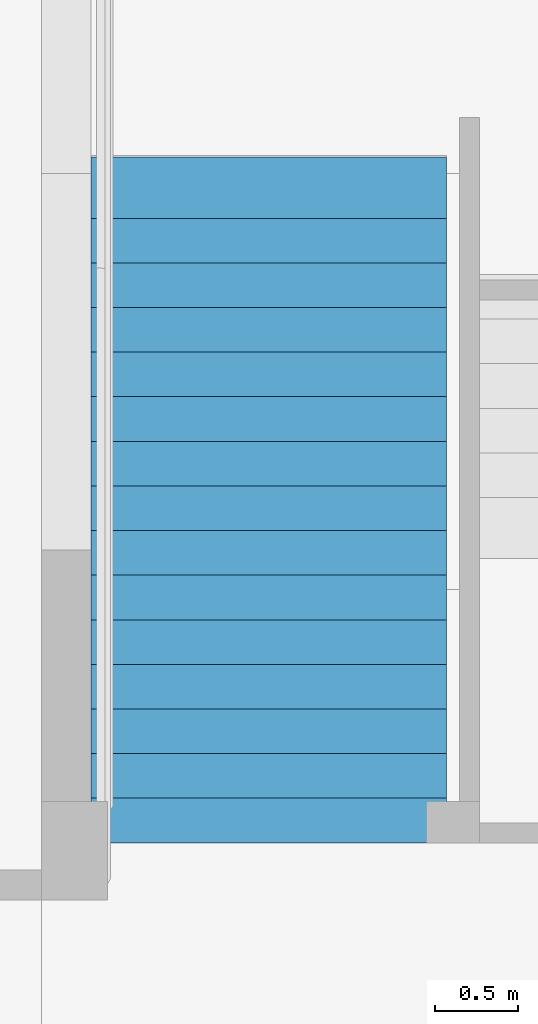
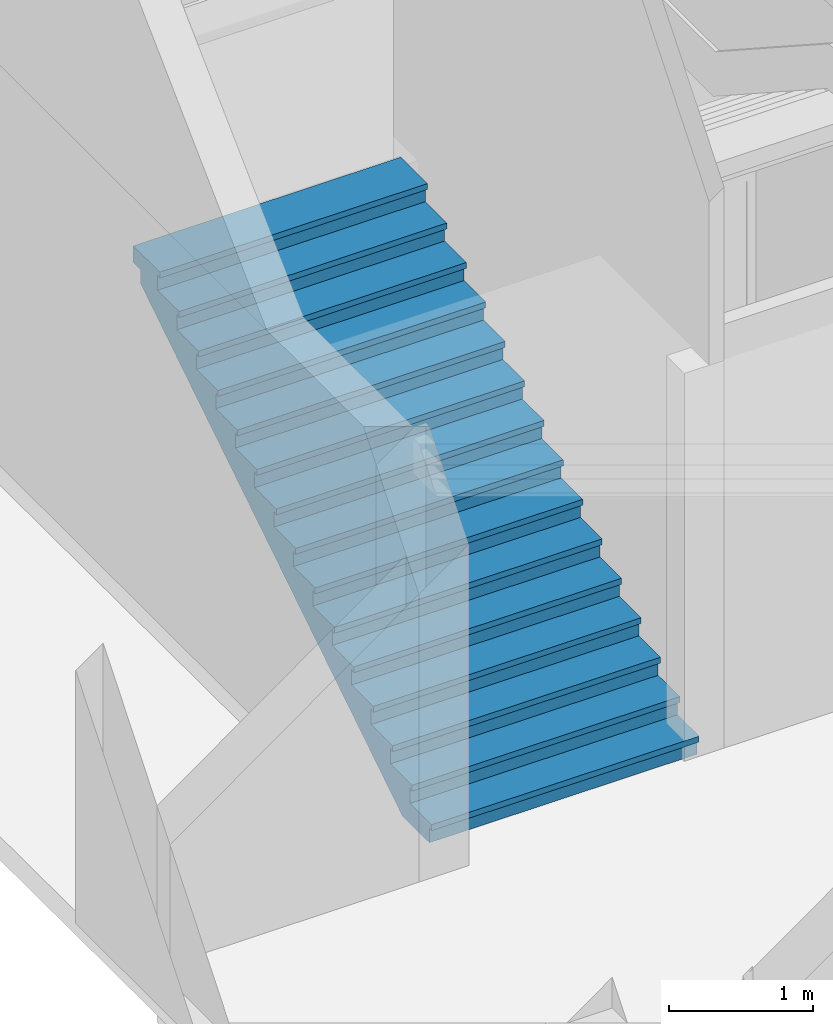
# One storey, part 97 of 117: 1 stair flight, 1 element without a shape of its own.
"""IFC4 building model written with IfcOpenShell, lengths in metres."""

from ifc_helpers import new_model, entity, si_unit, converted_unit, derived_unit, direction, frame, origin, place, context, subcontext, project, spatial, polygons, material, constituent, constituent_set, type_object, element, aggregate, save


model = new_model("IFC4")

# Units and contexts
model_context = context("Model", 3, precision=1e-05, world=origin(), true_north=direction((6.123031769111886e-17, 1.0)))
body_context = subcontext(model_context, "Body", "Model", "MODEL_VIEW")
ifc_project = project(units=[si_unit("LENGTHUNIT", "METRE"), si_unit("AREAUNIT", "SQUARE_METRE"), si_unit("VOLUMEUNIT", "CUBIC_METRE"), converted_unit("PLANEANGLEUNIT", "DEGREE", entity("IfcRatioMeasure", 0.017453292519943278), si_unit("PLANEANGLEUNIT", "RADIAN"), dimensions=[0, 0, 0, 0, 0, 0, 0]), si_unit("MASSUNIT", "GRAM", prefix="KILO"), derived_unit("MASSDENSITYUNIT", [(si_unit("MASSUNIT", "GRAM", prefix="KILO"), 1), (si_unit("LENGTHUNIT", "METRE"), -3)]), derived_unit("MOMENTOFINERTIAUNIT", [(si_unit("LENGTHUNIT", "METRE"), 4)]), si_unit("TIMEUNIT", "SECOND"), si_unit("FREQUENCYUNIT", "HERTZ"), si_unit("THERMODYNAMICTEMPERATUREUNIT", "DEGREE_CELSIUS"), derived_unit("THERMALTRANSMITTANCEUNIT", [(si_unit("MASSUNIT", "GRAM", prefix="KILO"), 1), (si_unit("THERMODYNAMICTEMPERATUREUNIT", "KELVIN"), -1), (si_unit("TIMEUNIT", "SECOND"), -3)]), derived_unit("VOLUMETRICFLOWRATEUNIT", [(si_unit("LENGTHUNIT", "METRE"), 3), (si_unit("TIMEUNIT", "SECOND"), -1)]), derived_unit("MASSFLOWRATEUNIT", [(si_unit("MASSUNIT", "GRAM", prefix="KILO"), 1), (si_unit("TIMEUNIT", "SECOND"), -1)]), derived_unit("ROTATIONALFREQUENCYUNIT", [(si_unit("TIMEUNIT", "SECOND"), -1)]), si_unit("ELECTRICCURRENTUNIT", "AMPERE"), si_unit("ELECTRICVOLTAGEUNIT", "VOLT"), si_unit("POWERUNIT", "WATT"), si_unit("FORCEUNIT", "NEWTON", prefix="KILO"), si_unit("ILLUMINANCEUNIT", "LUX"), si_unit("LUMINOUSFLUXUNIT", "LUMEN"), si_unit("LUMINOUSINTENSITYUNIT", "CANDELA"), derived_unit("USERDEFINED", [(si_unit("MASSUNIT", "GRAM", prefix="KILO"), -1), (si_unit("LENGTHUNIT", "METRE"), -2), (si_unit("TIMEUNIT", "SECOND"), 3), (si_unit("LUMINOUSFLUXUNIT", "LUMEN"), 1)]), derived_unit("SOUNDPOWERUNIT", [(si_unit("MASSUNIT", "GRAM", prefix="KILO"), 1), (si_unit("LENGTHUNIT", "METRE"), 2), (si_unit("TIMEUNIT", "SECOND"), -3)]), derived_unit("SOUNDPRESSUREUNIT", [(si_unit("MASSUNIT", "GRAM", prefix="KILO"), 1), (si_unit("LENGTHUNIT", "METRE"), -1), (si_unit("TIMEUNIT", "SECOND"), -2)]), derived_unit("LINEARVELOCITYUNIT", [(si_unit("LENGTHUNIT", "METRE"), 1), (si_unit("TIMEUNIT", "SECOND"), -1)]), si_unit("PRESSUREUNIT", "PASCAL"), derived_unit("USERDEFINED", [(si_unit("LENGTHUNIT", "METRE"), -2), (si_unit("MASSUNIT", "GRAM", prefix="KILO"), 1), (si_unit("TIMEUNIT", "SECOND"), -2)]), derived_unit("LINEARFORCEUNIT", [(si_unit("MASSUNIT", "GRAM", prefix="KILO"), 1), (si_unit("LENGTHUNIT", "METRE"), 1), (si_unit("TIMEUNIT", "SECOND"), -2), (si_unit("LENGTHUNIT", "METRE"), -1)]), derived_unit("PLANARFORCEUNIT", [(si_unit("MASSUNIT", "GRAM", prefix="KILO"), 1), (si_unit("LENGTHUNIT", "METRE"), 1), (si_unit("TIMEUNIT", "SECOND"), -2), (si_unit("LENGTHUNIT", "METRE"), -2)])], contexts=[model_context])

# Site, building, storey
site_placement = place(None, origin())
site = spatial("IfcSite", under=ifc_project, at=site_placement, Name="Superficie", CompositionType="ELEMENT")
building_placement = place(site_placement, origin())
building = spatial("IfcBuilding", under=site, at=building_placement, CompositionType="ELEMENT")
storey_placement = place(building_placement, origin())
storey = spatial("IfcBuildingStorey", under=building, at=storey_placement, Name="Nivel 0", CompositionType="ELEMENT", Elevation=0.0)

# Stair, stair flight
stair_type = type_object("IfcStairType", Name="Escalera prefabricada:Escalera prefabricada", PredefinedType="HALF_TURN_STAIR")
stair_placement = place(storey_placement, origin())
stair = element("IfcStair", 1, at=stair_placement, inside=storey, type_object=stair_type, Name="Escalera prefabricada:Escalera", ObjectType="Escalera prefabricada:Escalera prefabricada", PredefinedType="HALF_TURN_STAIR")
ifc_material_1 = material(Name="Cerámica blanca", Category="Cerámica")
ifc_constituent_1 = constituent(ifc_material_1, Name="Cerámica blanca", Category="Cerámica")
ifc_material_2 = material(Name="Hormigón", Category="Hormigón")
ifc_constituent_2 = constituent(ifc_material_2, Name="Hormigón", Category="Hormigón")
ifc_constituent_set = constituent_set(constituents=[ifc_constituent_1, ifc_constituent_2], Name="MaterialConstituentSet")
stair_flight_type = type_object("IfcStairFlightType", Name="Tramo monolítico:Huella 40 mm Mamperlán 30 mm Contrahuella 15 mm", PredefinedType="STRAIGHT")
stair_flight_placement = place(stair_placement, frame((-27.543200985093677, -2.924170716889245, 0.0)))
stair_flight = element("IfcStairFlight", 2, at=stair_flight_placement, type_object=stair_flight_type, material=ifc_constituent_set, Name="Escalera prefabricada:Escalera:336865 Run 1", ObjectType="Tramo monolítico:Huella 40 mm Mamperlán 30 mm Contrahuella 15 mm", PredefinedType="STRAIGHT", context=body_context, shape_type="Tessellation", body=[
    polygons([(2.1499999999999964, 0.0, 0.12142857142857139), (2.1499999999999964, 0.0, 0.1714285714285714), (0.0, 0.0, 0.1714285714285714), (0.0, 0.0, 0.12142857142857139), (2.1499999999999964, 0.022999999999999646, 0.12142857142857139), (0.0, 0.022999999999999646, 0.12142857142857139), (2.1499999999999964, 0.023000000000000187, 0.1314285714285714), (0.0, 0.022999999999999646, 0.1314285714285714), (2.1499999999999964, 0.31499999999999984, 0.1714285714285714), (0.0, 0.31499999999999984, 0.1714285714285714), (0.0, 0.31499999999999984, 0.1314285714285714), (2.1499999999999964, 0.31499999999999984, 0.1314285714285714)], [[[1, 2, 3, 4]], [[5, 1, 4, 6]], [[7, 5, 6, 8]], [[3, 2, 9, 10]], [[11, 12, 7, 8]], [[3, 10, 11, 8, 6, 4]], [[9, 2, 1, 5, 7, 12]], [[10, 9, 12, 11]]], closed=True),
    polygons([(2.1499999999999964, 0.029999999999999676, 0.1314285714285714), (2.1499999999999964, 0.029999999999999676, 0.0), (2.1499999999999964, 0.04499999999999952, 0.0), (2.1499999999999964, 0.04499999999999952, 0.1314285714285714), (0.0, 0.029999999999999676, 0.1314285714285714), (0.0, 0.04499999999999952, 0.1314285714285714), (0.0, 0.04499999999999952, 0.0), (0.0, 0.029999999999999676, 0.0)], [[[1, 2, 3, 4]], [[5, 6, 7, 8]], [[2, 1, 5, 8]], [[3, 2, 8, 7]], [[4, 3, 7, 6]], [[1, 4, 6, 5]]], closed=True),
    polygons([(2.1499999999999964, 0.2999999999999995, 0.3028571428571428), (2.1499999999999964, 0.2999999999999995, 0.1714285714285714), (2.1499999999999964, 0.31499999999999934, 0.1714285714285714), (2.1499999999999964, 0.31499999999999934, 0.3028571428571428), (0.0, 0.2999999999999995, 0.3028571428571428), (0.0, 0.31499999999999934, 0.3028571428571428), (0.0, 0.31499999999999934, 0.1714285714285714), (0.0, 0.2999999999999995, 0.1714285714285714)], [[[1, 2, 3, 4]], [[5, 6, 7, 8]], [[2, 1, 5, 8]], [[3, 2, 8, 7]], [[4, 3, 7, 6]], [[1, 4, 6, 5]]], closed=True),
    polygons([(0.0, 0.2699999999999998, 0.3428571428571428), (2.1499999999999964, 0.2699999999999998, 0.3428571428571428), (2.1499999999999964, 0.5850000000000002, 0.3428571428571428), (0.0, 0.5850000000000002, 0.3428571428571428), (0.0, 0.5850000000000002, 0.3028571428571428), (2.1499999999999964, 0.5850000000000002, 0.3028571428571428), (2.1499999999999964, 0.2929999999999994, 0.3028571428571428), (0.0, 0.2929999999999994, 0.3028571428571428), (0.0, 0.2929999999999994, 0.29285714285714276), (0.0, 0.2699999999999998, 0.29285714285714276), (2.1499999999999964, 0.2699999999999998, 0.29285714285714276), (2.1499999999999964, 0.2929999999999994, 0.29285714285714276)], [[[1, 2, 3, 4]], [[5, 6, 7, 8]], [[1, 4, 5, 8, 9, 10]], [[3, 2, 11, 12, 7, 6]], [[4, 3, 6, 5]], [[11, 2, 1, 10]], [[12, 11, 10, 9]], [[7, 12, 9, 8]]], closed=True),
    polygons([(2.1499999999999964, 0.5699999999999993, 0.4742857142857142), (2.1499999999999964, 0.5699999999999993, 0.3428571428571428), (2.1499999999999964, 0.5849999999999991, 0.3428571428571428), (2.1499999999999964, 0.5849999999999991, 0.4742857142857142), (0.0, 0.5699999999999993, 0.4742857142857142), (0.0, 0.5849999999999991, 0.4742857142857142), (0.0, 0.5849999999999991, 0.3428571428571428), (0.0, 0.5699999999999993, 0.3428571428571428)], [[[1, 2, 3, 4]], [[5, 6, 7, 8]], [[2, 1, 5, 8]], [[3, 2, 8, 7]], [[4, 3, 7, 6]], [[1, 4, 6, 5]]], closed=True),
    polygons([(0.0, 0.5399999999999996, 0.5142857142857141), (2.1499999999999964, 0.5399999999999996, 0.5142857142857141), (2.1499999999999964, 0.8549999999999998, 0.5142857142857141), (0.0, 0.8549999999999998, 0.5142857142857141), (0.0, 0.8549999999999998, 0.4742857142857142), (2.1499999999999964, 0.8549999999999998, 0.4742857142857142), (2.1499999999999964, 0.5629999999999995, 0.4742857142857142), (0.0, 0.5629999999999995, 0.4742857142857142), (0.0, 0.5629999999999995, 0.46428571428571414), (0.0, 0.5399999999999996, 0.46428571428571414), (2.1499999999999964, 0.5399999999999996, 0.46428571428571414), (2.1499999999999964, 0.5629999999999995, 0.46428571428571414)], [[[1, 2, 3, 4]], [[5, 6, 7, 8]], [[1, 4, 5, 8, 9, 10]], [[3, 2, 11, 12, 7, 6]], [[4, 3, 6, 5]], [[11, 2, 1, 10]], [[12, 11, 10, 9]], [[7, 12, 9, 8]]], closed=True),
    polygons([(2.150000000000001, 0.8400000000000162, 0.6457142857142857), (2.150000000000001, 0.8400000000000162, 0.5142857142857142), (2.150000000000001, 0.8550000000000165, 0.5142857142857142), (2.150000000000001, 0.8550000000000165, 0.6457142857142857), (0.0, 0.8400000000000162, 0.6457142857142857), (0.0, 0.8550000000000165, 0.6457142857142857), (0.0, 0.8550000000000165, 0.5142857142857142), (0.0, 0.8400000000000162, 0.5142857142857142)], [[[1, 2, 3, 4]], [[5, 6, 7, 8]], [[2, 1, 5, 8]], [[3, 2, 8, 7]], [[4, 3, 7, 6]], [[1, 4, 6, 5]]], closed=True),
    polygons([(0.0, 0.810000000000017, 0.6857142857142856), (2.150000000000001, 0.8100000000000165, 0.6857142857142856), (2.150000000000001, 1.125000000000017, 0.6857142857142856), (0.0, 1.125000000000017, 0.6857142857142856), (0.0, 1.125000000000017, 0.6457142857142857), (2.150000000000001, 1.125000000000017, 0.6457142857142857), (2.150000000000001, 0.8330000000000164, 0.6457142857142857), (0.0, 0.8330000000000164, 0.6457142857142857), (0.0, 0.8330000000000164, 0.6357142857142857), (0.0, 0.8100000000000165, 0.6357142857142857), (2.150000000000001, 0.8100000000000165, 0.6357142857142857), (2.150000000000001, 0.8330000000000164, 0.6357142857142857)], [[[1, 2, 3, 4]], [[5, 6, 7, 8]], [[1, 4, 5, 8, 9, 10]], [[3, 2, 11, 12, 7, 6]], [[4, 3, 6, 5]], [[11, 2, 1, 10]], [[12, 11, 10, 9]], [[7, 12, 9, 8]]], closed=True),
    polygons([(2.150000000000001, 1.1099999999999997, 0.8171428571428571), (2.150000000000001, 1.1099999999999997, 0.6857142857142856), (2.150000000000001, 1.1249999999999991, 0.6857142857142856), (2.150000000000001, 1.1249999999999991, 0.8171428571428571), (0.0, 1.1099999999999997, 0.8171428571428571), (0.0, 1.1249999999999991, 0.8171428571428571), (0.0, 1.1249999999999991, 0.6857142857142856), (0.0, 1.1099999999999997, 0.6857142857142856)], [[[1, 2, 3, 4]], [[5, 6, 7, 8]], [[2, 1, 5, 8]], [[3, 2, 8, 7]], [[4, 3, 7, 6]], [[1, 4, 6, 5]]], closed=True),
    polygons([(0.0, 1.08, 0.8571428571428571), (2.150000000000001, 1.08, 0.8571428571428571), (2.150000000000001, 1.3950000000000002, 0.8571428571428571), (0.0, 1.3950000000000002, 0.8571428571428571), (0.0, 1.3950000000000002, 0.8171428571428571), (2.150000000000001, 1.3950000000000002, 0.8171428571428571), (2.150000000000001, 1.1029999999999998, 0.8171428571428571), (0.0, 1.1029999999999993, 0.8171428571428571), (0.0, 1.1029999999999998, 0.807142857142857), (0.0, 1.08, 0.807142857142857), (2.150000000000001, 1.08, 0.807142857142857), (2.150000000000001, 1.1029999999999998, 0.807142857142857)], [[[1, 2, 3, 4]], [[5, 6, 7, 8]], [[1, 4, 5, 8, 9, 10]], [[3, 2, 11, 12, 7, 6]], [[4, 3, 6, 5]], [[11, 2, 1, 10]], [[12, 11, 10, 9]], [[7, 12, 9, 8]]], closed=True),
    polygons([(2.150000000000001, 1.3799999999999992, 0.9885714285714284), (2.150000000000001, 1.3799999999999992, 0.8571428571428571), (2.150000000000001, 1.3949999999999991, 0.8571428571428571), (2.150000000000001, 1.3949999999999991, 0.9885714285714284), (0.0, 1.3799999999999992, 0.9885714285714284), (0.0, 1.3949999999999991, 0.9885714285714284), (0.0, 1.3949999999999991, 0.8571428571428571), (0.0, 1.3799999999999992, 0.8571428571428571)], [[[1, 2, 3, 4]], [[5, 6, 7, 8]], [[2, 1, 5, 8]], [[3, 2, 8, 7]], [[4, 3, 7, 6]], [[1, 4, 6, 5]]], closed=True),
    polygons([(0.0, 1.3499999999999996, 1.0285714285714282), (2.150000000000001, 1.3499999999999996, 1.0285714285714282), (2.150000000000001, 1.665, 1.0285714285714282), (0.0, 1.665, 1.0285714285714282), (0.0, 1.665, 0.9885714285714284), (2.150000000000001, 1.665, 0.9885714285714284), (2.150000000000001, 1.3729999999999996, 0.9885714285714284), (0.0, 1.3729999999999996, 0.9885714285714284), (0.0, 1.3729999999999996, 0.9785714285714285), (0.0, 1.3499999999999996, 0.9785714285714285), (2.150000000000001, 1.3499999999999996, 0.9785714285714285), (2.150000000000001, 1.3729999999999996, 0.9785714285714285)], [[[1, 2, 3, 4]], [[5, 6, 7, 8]], [[1, 4, 5, 8, 9, 10]], [[3, 2, 11, 12, 7, 6]], [[4, 3, 6, 5]], [[11, 2, 1, 10]], [[12, 11, 10, 9]], [[7, 12, 9, 8]]], closed=True),
    polygons([(2.150000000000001, 1.6499999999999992, 1.16), (2.150000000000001, 1.6499999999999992, 1.0285714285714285), (2.150000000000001, 1.6649999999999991, 1.0285714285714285), (2.150000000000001, 1.6649999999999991, 1.16), (0.0, 1.6499999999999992, 1.16), (0.0, 1.6649999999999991, 1.16), (0.0, 1.6649999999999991, 1.0285714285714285), (0.0, 1.6499999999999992, 1.0285714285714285)], [[[1, 2, 3, 4]], [[5, 6, 7, 8]], [[2, 1, 5, 8]], [[3, 2, 8, 7]], [[4, 3, 7, 6]], [[1, 4, 6, 5]]], closed=True),
    polygons([(0.0, 1.6199999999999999, 1.1999999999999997), (2.150000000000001, 1.6199999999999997, 1.1999999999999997), (2.150000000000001, 1.9350000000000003, 1.1999999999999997), (0.0, 1.9350000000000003, 1.1999999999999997), (0.0, 1.9350000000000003, 1.16), (2.150000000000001, 1.9350000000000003, 1.16), (2.150000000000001, 1.6429999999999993, 1.16), (0.0, 1.6429999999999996, 1.16), (0.0, 1.6429999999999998, 1.15), (0.0, 1.6199999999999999, 1.15), (2.150000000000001, 1.6199999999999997, 1.15), (2.150000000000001, 1.6429999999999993, 1.15)], [[[1, 2, 3, 4]], [[5, 6, 7, 8]], [[1, 4, 5, 8, 9, 10]], [[3, 2, 11, 12, 7, 6]], [[4, 3, 6, 5]], [[11, 2, 1, 10]], [[12, 11, 10, 9]], [[7, 12, 9, 8]]], closed=True),
    polygons([(2.150000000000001, 1.9199999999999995, 1.331428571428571), (2.150000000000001, 1.9199999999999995, 1.1999999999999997), (2.150000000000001, 1.9349999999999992, 1.1999999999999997), (2.150000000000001, 1.9349999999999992, 1.331428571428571), (0.0, 1.9199999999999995, 1.331428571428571), (0.0, 1.9349999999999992, 1.331428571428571), (0.0, 1.9349999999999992, 1.1999999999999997), (0.0, 1.9199999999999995, 1.1999999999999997)], [[[1, 2, 3, 4]], [[5, 6, 7, 8]], [[2, 1, 5, 8]], [[3, 2, 8, 7]], [[4, 3, 7, 6]], [[1, 4, 6, 5]]], closed=True),
    polygons([(0.0, 1.8899999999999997, 1.371428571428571), (2.150000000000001, 1.8899999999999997, 1.371428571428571), (2.150000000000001, 2.205, 1.371428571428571), (0.0, 2.205, 1.371428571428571), (0.0, 2.205, 1.331428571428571), (2.150000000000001, 2.205, 1.3314285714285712), (2.150000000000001, 1.9129999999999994, 1.3314285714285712), (0.0, 1.9129999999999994, 1.331428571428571), (0.0, 1.9129999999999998, 1.321428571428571), (0.0, 1.8899999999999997, 1.321428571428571), (2.150000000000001, 1.8899999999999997, 1.321428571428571), (2.150000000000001, 1.9129999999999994, 1.321428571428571)], [[[1, 2, 3, 4]], [[5, 6, 7, 8]], [[1, 4, 5, 8, 9, 10]], [[3, 2, 11, 12, 7, 6]], [[4, 3, 6, 5]], [[11, 2, 1, 10]], [[12, 11, 10, 9]], [[7, 12, 9, 8]]], closed=True),
    polygons([(2.150000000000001, 2.189999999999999, 1.5028571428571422), (2.150000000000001, 2.189999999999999, 1.3714285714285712), (2.150000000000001, 2.204999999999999, 1.3714285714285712), (2.150000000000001, 2.204999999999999, 1.5028571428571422), (0.0, 2.189999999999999, 1.5028571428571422), (0.0, 2.204999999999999, 1.5028571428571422), (0.0, 2.204999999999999, 1.3714285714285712), (0.0, 2.189999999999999, 1.3714285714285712)], [[[1, 2, 3, 4]], [[5, 6, 7, 8]], [[2, 1, 5, 8]], [[3, 2, 8, 7]], [[4, 3, 7, 6]], [[1, 4, 6, 5]]], closed=True),
    polygons([(0.0, 2.1599999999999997, 1.5428571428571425), (2.150000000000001, 2.1599999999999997, 1.5428571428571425), (2.150000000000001, 2.475, 1.5428571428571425), (0.0, 2.475, 1.5428571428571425), (0.0, 2.475, 1.5028571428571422), (2.150000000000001, 2.475, 1.5028571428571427), (2.150000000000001, 2.1829999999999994, 1.5028571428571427), (0.0, 2.1829999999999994, 1.5028571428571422), (0.0, 2.1829999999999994, 1.4928571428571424), (0.0, 2.1599999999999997, 1.4928571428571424), (2.150000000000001, 2.1599999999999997, 1.4928571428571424), (2.150000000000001, 2.1829999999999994, 1.4928571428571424)], [[[1, 2, 3, 4]], [[5, 6, 7, 8]], [[1, 4, 5, 8, 9, 10]], [[3, 2, 11, 12, 7, 6]], [[4, 3, 6, 5]], [[11, 2, 1, 10]], [[12, 11, 10, 9]], [[7, 12, 9, 8]]], closed=True),
    polygons([(2.150000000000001, 2.4599999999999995, 1.6742857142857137), (2.150000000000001, 2.4599999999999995, 1.5428571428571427), (2.150000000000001, 2.474999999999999, 1.5428571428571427), (2.150000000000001, 2.474999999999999, 1.6742857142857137), (0.0, 2.4599999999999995, 1.6742857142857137), (0.0, 2.474999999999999, 1.6742857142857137), (0.0, 2.474999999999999, 1.5428571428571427), (0.0, 2.4599999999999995, 1.5428571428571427)], [[[1, 2, 3, 4]], [[5, 6, 7, 8]], [[2, 1, 5, 8]], [[3, 2, 8, 7]], [[4, 3, 7, 6]], [[1, 4, 6, 5]]], closed=True),
    polygons([(0.0, 2.43, 1.7142857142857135), (2.150000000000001, 2.4299999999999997, 1.7142857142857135), (2.150000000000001, 2.745, 1.7142857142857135), (0.0, 2.745, 1.7142857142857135), (0.0, 2.745, 1.6742857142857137), (2.150000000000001, 2.745, 1.674285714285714), (2.150000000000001, 2.4529999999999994, 1.674285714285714), (0.0, 2.4529999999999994, 1.6742857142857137), (0.0, 2.453, 1.664285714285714), (0.0, 2.4299999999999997, 1.664285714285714), (2.150000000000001, 2.4299999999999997, 1.664285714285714), (2.150000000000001, 2.4529999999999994, 1.664285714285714)], [[[1, 2, 3, 4]], [[5, 6, 7, 8]], [[1, 4, 5, 8, 9, 10]], [[3, 2, 11, 12, 7, 6]], [[4, 3, 6, 5]], [[11, 2, 1, 10]], [[12, 11, 10, 9]], [[7, 12, 9, 8]]], closed=True),
    polygons([(2.150000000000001, 2.730000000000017, 1.8457142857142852), (2.150000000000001, 2.730000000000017, 1.7142857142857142), (2.150000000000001, 2.7450000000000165, 1.7142857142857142), (2.150000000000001, 2.7450000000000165, 1.8457142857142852), (0.0, 2.730000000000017, 1.8457142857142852), (0.0, 2.7450000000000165, 1.8457142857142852), (0.0, 2.7450000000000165, 1.7142857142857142), (0.0, 2.730000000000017, 1.7142857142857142)], [[[1, 2, 3, 4]], [[5, 6, 7, 8]], [[2, 1, 5, 8]], [[3, 2, 8, 7]], [[4, 3, 7, 6]], [[1, 4, 6, 5]]], closed=True),
    polygons([(0.0, 2.700000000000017, 1.885714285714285), (2.150000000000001, 2.700000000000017, 1.885714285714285), (2.150000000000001, 3.0150000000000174, 1.885714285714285), (0.0, 3.0150000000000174, 1.885714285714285), (0.0, 3.0150000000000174, 1.8457142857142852), (2.150000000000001, 3.0150000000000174, 1.8457142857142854), (2.150000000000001, 2.7230000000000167, 1.8457142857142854), (0.0, 2.7230000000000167, 1.8457142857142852), (0.0, 2.723000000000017, 1.8357142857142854), (0.0, 2.700000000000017, 1.8357142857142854), (2.150000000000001, 2.700000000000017, 1.8357142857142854), (2.150000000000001, 2.7230000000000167, 1.8357142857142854)], [[[1, 2, 3, 4]], [[5, 6, 7, 8]], [[1, 4, 5, 8, 9, 10]], [[3, 2, 11, 12, 7, 6]], [[4, 3, 6, 5]], [[11, 2, 1, 10]], [[12, 11, 10, 9]], [[7, 12, 9, 8]]], closed=True),
    polygons([(2.1500000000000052, 2.999999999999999, 2.0171428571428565), (2.1500000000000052, 2.999999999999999, 1.885714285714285), (2.1500000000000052, 3.014999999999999, 1.885714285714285), (2.1500000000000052, 3.014999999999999, 2.0171428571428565), (8.662937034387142e-15, 2.999999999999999, 2.0171428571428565), (8.662937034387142e-15, 3.014999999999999, 2.0171428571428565), (8.662937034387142e-15, 3.014999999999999, 1.885714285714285), (8.662937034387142e-15, 2.999999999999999, 1.885714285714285)], [[[1, 2, 3, 4]], [[5, 6, 7, 8]], [[2, 1, 5, 8]], [[3, 2, 8, 7]], [[4, 3, 7, 6]], [[1, 4, 6, 5]]], closed=True),
    polygons([(8.662937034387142e-15, 2.9699999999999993, 2.0571428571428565), (2.1500000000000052, 2.9699999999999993, 2.0571428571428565), (2.1500000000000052, 3.2849999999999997, 2.0571428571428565), (8.662937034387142e-15, 3.2849999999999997, 2.0571428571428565), (8.662937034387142e-15, 3.2849999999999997, 2.0171428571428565), (2.1500000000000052, 3.2849999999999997, 2.0171428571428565), (2.1500000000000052, 2.992999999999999, 2.0171428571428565), (8.662937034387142e-15, 2.992999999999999, 2.0171428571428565), (8.662937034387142e-15, 2.993, 2.0071428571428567), (8.662937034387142e-15, 2.9699999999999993, 2.0071428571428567), (2.1500000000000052, 2.9699999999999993, 2.0071428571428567), (2.1500000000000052, 2.992999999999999, 2.0071428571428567)], [[[1, 2, 3, 4]], [[5, 6, 7, 8]], [[1, 4, 5, 8, 9, 10]], [[3, 2, 11, 12, 7, 6]], [[4, 3, 6, 5]], [[11, 2, 1, 10]], [[12, 11, 10, 9]], [[7, 12, 9, 8]]], closed=True),
    polygons([(2.1500000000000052, 3.2699999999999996, 2.1885714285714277), (2.1500000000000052, 3.2699999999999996, 2.0571428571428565), (2.1500000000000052, 3.2849999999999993, 2.0571428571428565), (2.1500000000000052, 3.2849999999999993, 2.1885714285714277), (8.662937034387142e-15, 3.2699999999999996, 2.1885714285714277), (8.662937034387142e-15, 3.2849999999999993, 2.1885714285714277), (8.662937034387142e-15, 3.2849999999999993, 2.0571428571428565), (8.662937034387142e-15, 3.2699999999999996, 2.0571428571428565)], [[[1, 2, 3, 4]], [[5, 6, 7, 8]], [[2, 1, 5, 8]], [[3, 2, 8, 7]], [[4, 3, 7, 6]], [[1, 4, 6, 5]]], closed=True),
    polygons([(8.662937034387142e-15, 3.2399999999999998, 2.2285714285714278), (2.1500000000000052, 3.2399999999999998, 2.2285714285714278), (2.1500000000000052, 3.555, 2.2285714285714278), (8.662937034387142e-15, 3.555, 2.2285714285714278), (8.662937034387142e-15, 3.555, 2.188571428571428), (2.1500000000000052, 3.555, 2.188571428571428), (2.1500000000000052, 3.2629999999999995, 2.188571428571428), (8.662937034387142e-15, 3.2629999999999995, 2.1885714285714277), (8.662937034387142e-15, 3.263, 2.178571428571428), (8.662937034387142e-15, 3.2399999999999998, 2.178571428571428), (2.1500000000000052, 3.2399999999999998, 2.178571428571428), (2.1500000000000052, 3.2629999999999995, 2.178571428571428)], [[[1, 2, 3, 4]], [[5, 6, 7, 8]], [[1, 4, 5, 8, 9, 10]], [[3, 2, 11, 12, 7, 6]], [[4, 3, 6, 5]], [[11, 2, 1, 10]], [[12, 11, 10, 9]], [[7, 12, 9, 8]]], closed=True),
    polygons([(2.1500000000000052, 3.539999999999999, 2.3599999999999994), (2.1500000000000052, 3.539999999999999, 2.2285714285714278), (2.1500000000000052, 3.5549999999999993, 2.2285714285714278), (2.1500000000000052, 3.5549999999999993, 2.3599999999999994), (8.662937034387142e-15, 3.539999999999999, 2.3599999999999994), (8.662937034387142e-15, 3.5549999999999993, 2.3599999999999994), (8.662937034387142e-15, 3.5549999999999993, 2.2285714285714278), (8.662937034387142e-15, 3.539999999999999, 2.2285714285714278)], [[[1, 2, 3, 4]], [[5, 6, 7, 8]], [[2, 1, 5, 8]], [[3, 2, 8, 7]], [[4, 3, 7, 6]], [[1, 4, 6, 5]]], closed=True),
    polygons([(8.662937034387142e-15, 3.51, 2.3999999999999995), (2.1500000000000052, 3.51, 2.3999999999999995), (2.1500000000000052, 3.825, 2.3999999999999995), (8.662937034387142e-15, 3.825, 2.3999999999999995), (8.662937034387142e-15, 3.825, 2.3599999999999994), (2.1500000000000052, 3.825, 2.3599999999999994), (2.1500000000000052, 3.5329999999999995, 2.3599999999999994), (8.662937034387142e-15, 3.5329999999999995, 2.3599999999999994), (8.662937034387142e-15, 3.5329999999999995, 2.349999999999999), (8.662937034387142e-15, 3.51, 2.349999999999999), (2.1500000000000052, 3.51, 2.349999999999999), (2.1500000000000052, 3.5329999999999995, 2.349999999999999)], [[[1, 2, 3, 4]], [[5, 6, 7, 8]], [[1, 4, 5, 8, 9, 10]], [[3, 2, 11, 12, 7, 6]], [[4, 3, 6, 5]], [[11, 2, 1, 10]], [[12, 11, 10, 9]], [[7, 12, 9, 8]]], closed=True),
    polygons([(2.1500000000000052, 3.8099999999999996, 2.531428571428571), (2.1500000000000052, 3.81, 2.3999999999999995), (2.1500000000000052, 3.825, 2.3999999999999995), (2.1500000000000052, 3.825, 2.531428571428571), (8.662937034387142e-15, 3.8099999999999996, 2.531428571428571), (8.662937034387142e-15, 3.825, 2.531428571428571), (8.662937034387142e-15, 3.825, 2.3999999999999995), (8.662937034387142e-15, 3.81, 2.3999999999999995)], [[[1, 2, 3, 4]], [[5, 6, 7, 8]], [[2, 1, 5, 8]], [[3, 2, 8, 7]], [[4, 3, 7, 6]], [[1, 4, 6, 5]]], closed=True),
    polygons([(8.662937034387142e-15, 4.15, 2.571428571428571), (8.662937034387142e-15, 4.050000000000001, 2.571428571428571), (8.662937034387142e-15, 3.78, 2.571428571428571), (2.1500000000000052, 3.78, 2.571428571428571), (2.1500000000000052, 4.15, 2.571428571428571), (8.662937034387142e-15, 4.050000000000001, 2.531428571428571), (8.662937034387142e-15, 4.15, 2.531428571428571), (2.1500000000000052, 4.15, 2.531428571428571), (2.1500000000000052, 3.8030000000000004, 2.531428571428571), (8.662937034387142e-15, 3.8030000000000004, 2.531428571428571), (2.1500000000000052, 3.78, 2.521428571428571), (2.1500000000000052, 3.8030000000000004, 2.521428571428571), (8.662937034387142e-15, 3.78, 2.521428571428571), (8.662937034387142e-15, 3.8030000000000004, 2.521428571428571)], [[[1, 2, 3, 4, 5]], [[6, 7, 8, 9, 10]], [[2, 1, 7, 6]], [[5, 4, 11, 12, 9, 8]], [[1, 5, 8, 7]], [[11, 4, 3, 13]], [[12, 11, 13, 14]], [[9, 12, 14, 10]], [[3, 2, 6, 10, 14, 13]]], closed=True),
    polygons([(0.0, 0.31499999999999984, 0.13142857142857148), (0.0, 0.04500000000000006, 0.13142857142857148), (2.1499999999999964, 0.04500000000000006, 0.13142857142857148), (2.1499999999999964, 0.31499999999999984, 0.13142857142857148), (0.0, 0.31499999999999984, 0.0), (0.0, 0.04500000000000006, 5.639932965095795e-18), (2.1499999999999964, 0.04500000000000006, 5.639932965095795e-18), (2.1499999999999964, 0.31499999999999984, 0.0), (0.0, 0.5850000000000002, 0.3028571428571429), (0.0, 0.3150000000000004, 0.3028571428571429), (2.1499999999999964, 0.3150000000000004, 0.3028571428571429), (2.1499999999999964, 0.5850000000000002, 0.3028571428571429), (0.0, 0.585, 0.11333147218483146), (0.0, 0.4065029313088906, -9.023892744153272e-17), (2.1499999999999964, 0.4065029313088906, -9.023892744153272e-17), (2.1499999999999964, 0.585, 0.11333147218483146), (0.0, 0.8550000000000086, 0.47428571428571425), (0.0, 0.5850000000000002, 0.47428571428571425), (2.1499999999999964, 0.5850000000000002, 0.47428571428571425), (2.1499999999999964, 0.8550000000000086, 0.47428571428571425), (0.0, 0.8549999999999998, 0.2847600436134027), (2.1499999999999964, 0.8549999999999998, 0.2847600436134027), (4.331468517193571e-15, 1.1250000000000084, 0.6457142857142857), (0.0, 0.8550000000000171, 0.6457142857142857), (2.150000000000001, 0.8550000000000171, 0.6457142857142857), (2.150000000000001, 1.1250000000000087, 0.6457142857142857), (0.0, 1.1250000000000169, 0.4561886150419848), (2.150000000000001, 1.1250000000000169, 0.4561886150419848), (4.331468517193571e-15, 1.3950000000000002, 0.8171428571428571), (0.0, 1.1250000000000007, 0.8171428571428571), (2.150000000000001, 1.1250000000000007, 0.8171428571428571), (2.150000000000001, 1.3950000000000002, 0.8171428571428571), (0.0, 1.3949999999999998, 0.6276171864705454), (2.150000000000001, 1.3949999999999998, 0.6276171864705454), (4.331468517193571e-15, 1.665, 0.9885714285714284), (0.0, 1.3950000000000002, 0.9885714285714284), (2.150000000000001, 1.3950000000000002, 0.9885714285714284), (2.150000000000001, 1.665, 0.9885714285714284), (0.0, 1.6649999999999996, 0.7990457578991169), (2.150000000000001, 1.6649999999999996, 0.7990457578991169), (4.331468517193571e-15, 1.9350000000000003, 1.16), (0.0, 1.6650000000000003, 1.16), (2.150000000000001, 1.6650000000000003, 1.16), (2.150000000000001, 1.935, 1.16), (0.0, 1.9350000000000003, 0.9704743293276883), (2.150000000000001, 1.9349999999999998, 0.9704743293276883), (4.331468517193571e-15, 2.205, 1.3314285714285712), (0.0, 1.9350000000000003, 1.3314285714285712), (2.150000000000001, 1.9350000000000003, 1.3314285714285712), (2.150000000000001, 2.205, 1.3314285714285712), (0.0, 2.205, 1.1419029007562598), (2.150000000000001, 2.205, 1.1419029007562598), (4.331468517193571e-15, 2.4750000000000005, 1.5028571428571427), (0.0, 2.205, 1.5028571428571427), (2.150000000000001, 2.205, 1.5028571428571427), (2.150000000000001, 2.4750000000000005, 1.5028571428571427), (0.0, 2.475, 1.3133314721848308), (2.150000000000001, 2.475, 1.3133314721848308), (4.331468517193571e-15, 2.745000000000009, 1.674285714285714), (0.0, 2.4750000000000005, 1.674285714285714), (2.150000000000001, 2.4750000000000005, 1.674285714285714), (2.150000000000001, 2.745000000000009, 1.674285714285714), (0.0, 2.745, 1.4847600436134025), (2.150000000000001, 2.745, 1.4847600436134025), (4.331468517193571e-15, 3.0150000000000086, 1.8457142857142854), (0.0, 2.7450000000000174, 1.8457142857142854), (2.150000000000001, 2.7450000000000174, 1.8457142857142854), (2.150000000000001, 3.0150000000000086, 1.8457142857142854), (8.662937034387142e-15, 3.0150000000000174, 1.656188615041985), (2.1500000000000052, 3.0150000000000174, 1.656188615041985), (8.662937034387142e-15, 3.2850000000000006, 2.0171428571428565), (8.662937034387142e-15, 3.015, 2.0171428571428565), (2.1500000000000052, 3.015, 2.0171428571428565), (2.1500000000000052, 3.2850000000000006, 2.0171428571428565), (8.662937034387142e-15, 3.2849999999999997, 1.8276171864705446), (2.1500000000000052, 3.2849999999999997, 1.8276171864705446), (8.662937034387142e-15, 3.555, 2.188571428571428), (8.662937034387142e-15, 3.2850000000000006, 2.188571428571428), (2.1500000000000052, 3.2850000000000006, 2.188571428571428), (2.1500000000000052, 3.555, 2.188571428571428), (8.662937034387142e-15, 3.5550000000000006, 1.9990457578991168), (2.1500000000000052, 3.555, 1.9990457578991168), (8.662937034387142e-15, 3.825, 2.3599999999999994), (8.662937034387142e-15, 3.555, 2.3599999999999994), (2.1500000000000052, 3.555, 2.3599999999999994), (2.1500000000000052, 3.825, 2.3599999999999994), (8.662937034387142e-15, 3.8250000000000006, 2.1704743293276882), (2.1500000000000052, 3.825, 2.170474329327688), (8.662937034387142e-15, 3.825, 2.531428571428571), (2.1500000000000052, 3.825, 2.531428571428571), (2.1500000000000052, 4.15, 2.531428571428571), (8.662937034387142e-15, 4.15, 2.531428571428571), (8.662937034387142e-15, 4.15, 2.431428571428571), (8.662937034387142e-15, 4.050000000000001, 2.431428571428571), (8.662937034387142e-15, 4.050000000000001, 2.313331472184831), (2.1500000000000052, 4.050000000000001, 2.313331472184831), (2.1500000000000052, 4.050000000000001, 2.431428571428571), (2.1500000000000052, 4.15, 2.431428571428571)], [[[1, 2, 3, 4]], [[2, 1, 5, 6]], [[3, 2, 6, 7]], [[4, 3, 7, 8]], [[9, 10, 11, 12]], [[5, 1, 10, 9, 13, 14]], [[1, 4, 11, 10]], [[4, 8, 15, 16, 12, 11]], [[17, 18, 19, 20]], [[18, 17, 21, 13, 9]], [[9, 12, 19, 18]], [[20, 19, 12, 16, 22]], [[23, 24, 25, 26]], [[24, 23, 27, 21, 17]], [[17, 20, 25, 24]], [[26, 25, 20, 22, 28]], [[29, 30, 31, 32]], [[30, 29, 33, 27, 23]], [[23, 26, 31, 30]], [[32, 31, 26, 28, 34]], [[35, 36, 37, 38]], [[36, 35, 39, 33, 29]], [[29, 32, 37, 36]], [[38, 37, 32, 34, 40]], [[41, 42, 43, 44]], [[42, 41, 45, 39, 35]], [[35, 38, 43, 42]], [[44, 43, 38, 40, 46]], [[47, 48, 49, 50]], [[48, 47, 51, 45, 41]], [[41, 44, 49, 48]], [[50, 49, 44, 46, 52]], [[53, 54, 55, 56]], [[54, 53, 57, 51, 47]], [[47, 50, 55, 54]], [[56, 55, 50, 52, 58]], [[59, 60, 61, 62]], [[60, 59, 63, 57, 53]], [[53, 56, 61, 60]], [[62, 61, 56, 58, 64]], [[65, 66, 67, 68]], [[66, 65, 69, 63, 59]], [[59, 62, 67, 66]], [[68, 67, 62, 64, 70]], [[71, 72, 73, 74]], [[72, 71, 75, 69, 65]], [[65, 68, 73, 72]], [[74, 73, 68, 70, 76]], [[77, 78, 79, 80]], [[78, 77, 81, 75, 71]], [[71, 74, 79, 78]], [[80, 79, 74, 76, 82]], [[83, 84, 85, 86]], [[84, 83, 87, 81, 77]], [[77, 80, 85, 84]], [[86, 85, 80, 82, 88]], [[89, 90, 91, 92]], [[89, 92, 93, 94, 95, 87, 83]], [[83, 86, 90, 89]], [[91, 90, 86, 88, 96, 97, 98]], [[97, 96, 95, 94]], [[6, 5, 14, 15, 8, 7]], [[15, 14, 13, 21, 27, 33, 39, 45, 51, 57, 63, 69, 75, 81, 87, 95, 96, 88, 82, 76, 70, 64, 58, 52, 46, 40, 34, 28, 22, 16]], [[98, 97, 94, 93]], [[98, 93, 92, 91]]], closed=True),
])
aggregate(stair, [stair_flight])

save(model, "model.ifc")
